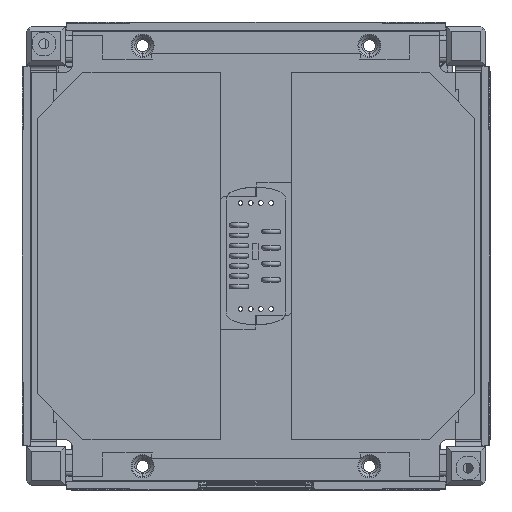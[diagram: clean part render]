
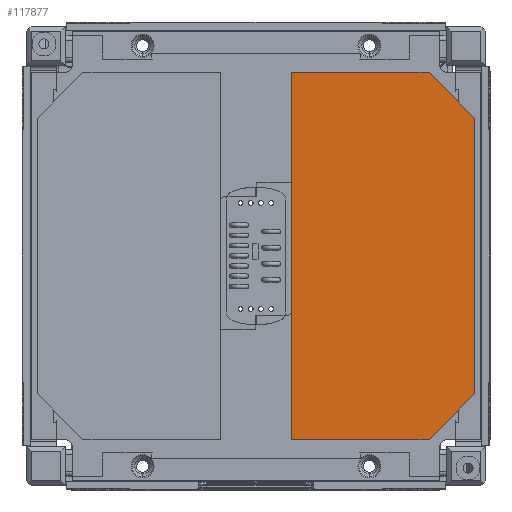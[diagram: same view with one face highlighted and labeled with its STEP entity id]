
A CAD part, front view. The second image highlights one B-rep face of the part: STEP entity #117877.
In plain terms, the highlighted planar face has unit normal (0, -1, 0) as drawn and (0, 0, 1) by its records, which use the part's own axes.
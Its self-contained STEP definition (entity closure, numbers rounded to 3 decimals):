
#114690=DIRECTION('',(-0.707,0.707,0.));
#114691=VECTOR('',#114690,14.142);
#114692=CARTESIAN_POINT('',(19.,1.3,0.));
#114693=LINE('',#114692,#114691);
#114697=DIRECTION('',(0.,1.,0.));
#114698=VECTOR('',#114697,30.);
#114699=CARTESIAN_POINT('',(9.,11.3,0.));
#114700=LINE('',#114699,#114698);
#114704=DIRECTION('',(1.,0.,0.));
#114705=VECTOR('',#114704,80.);
#114706=CARTESIAN_POINT('',(9.,41.3,0.));
#114707=LINE('',#114706,#114705);
#114711=DIRECTION('',(0.,-1.,0.));
#114712=VECTOR('',#114711,30.);
#114713=CARTESIAN_POINT('',(89.,41.3,0.));
#114714=LINE('',#114713,#114712);
#114718=DIRECTION('',(-0.707,-0.707,0.));
#114719=VECTOR('',#114718,14.142);
#114720=CARTESIAN_POINT('',(89.,11.3,0.));
#114721=LINE('',#114720,#114719);
#114725=DIRECTION('',(-1.,0.,0.));
#114726=VECTOR('',#114725,60.);
#114727=CARTESIAN_POINT('',(79.,1.3,0.));
#114728=LINE('',#114727,#114726);
#116878=CARTESIAN_POINT('',(9.,11.3,0.));
#116879=VERTEX_POINT('',#116878);
#116882=CARTESIAN_POINT('',(9.,41.3,0.));
#116883=VERTEX_POINT('',#116882);
#116884=CARTESIAN_POINT('',(89.,41.3,0.));
#116885=VERTEX_POINT('',#116884);
#116886=CARTESIAN_POINT('',(89.,11.3,0.));
#116887=VERTEX_POINT('',#116886);
#116888=CARTESIAN_POINT('',(79.,1.3,0.));
#116889=VERTEX_POINT('',#116888);
#116890=CARTESIAN_POINT('',(19.,1.3,0.));
#116891=VERTEX_POINT('',#116890);
#117864=CARTESIAN_POINT('',(49.,21.3,0.));
#117865=DIRECTION('',(0.,0.,1.));
#117866=DIRECTION('',(1.,0.,0.));
#117867=AXIS2_PLACEMENT_3D('',#117864,#117865,#117866);
#117868=PLANE('',#117867);
#117869=ORIENTED_EDGE('',*,*,#117846,.T.);
#117870=ORIENTED_EDGE('',*,*,#117716,.T.);
#117871=ORIENTED_EDGE('',*,*,#117743,.T.);
#117872=ORIENTED_EDGE('',*,*,#117769,.T.);
#117873=ORIENTED_EDGE('',*,*,#117795,.T.);
#117874=ORIENTED_EDGE('',*,*,#117821,.T.);
#117875=EDGE_LOOP('',(#117869,#117870,#117871,#117872,#117873,#117874));
#117876=FACE_OUTER_BOUND('',#117875,.F.);
#117716=EDGE_CURVE('',#116879,#116883,#114700,.T.);
#117743=EDGE_CURVE('',#116883,#116885,#114707,.T.);
#117769=EDGE_CURVE('',#116885,#116887,#114714,.T.);
#117795=EDGE_CURVE('',#116887,#116889,#114721,.T.);
#117821=EDGE_CURVE('',#116889,#116891,#114728,.T.);
#117846=EDGE_CURVE('',#116891,#116879,#114693,.T.);
#117877=ADVANCED_FACE('',(#117876),#117868,.T.);
